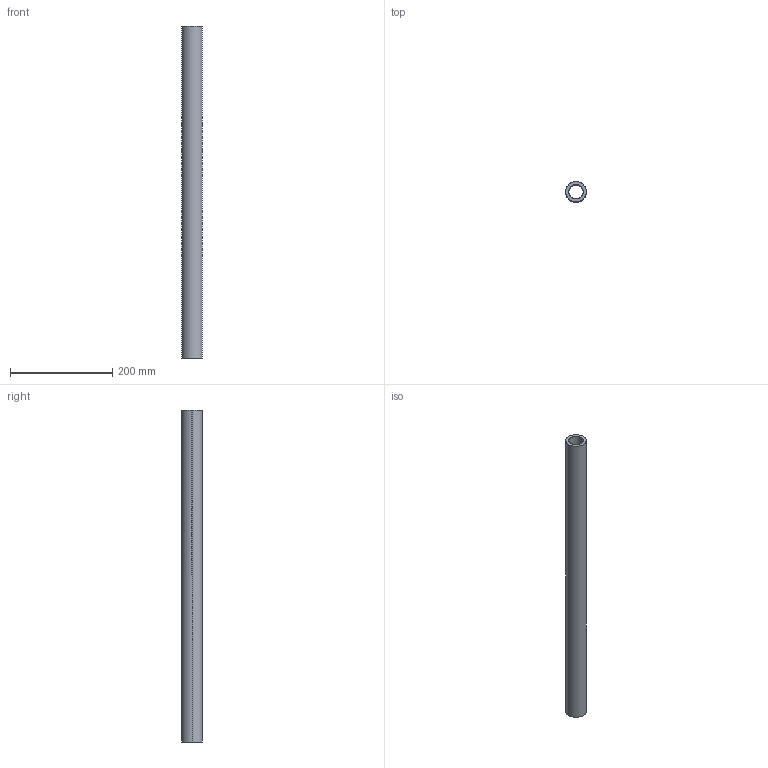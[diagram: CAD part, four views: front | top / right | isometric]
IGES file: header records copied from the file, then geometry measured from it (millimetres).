
Start section: SolidWorks IGES file using analytic representation for surfaces
Global section: file name: C:\Users\IanO\Desktop\L1771_v2\L1771.40_v2\L1771.40_v2_20230705_IGES\L1771.40-0650.igs; native system: SolidWorks 2019; preprocessor: SolidWorks 2019; author: IanO; date: 230705.160110; units: millimetre
Bounding box: 40 x 40 x 650 mm (x, y, z)
Surface area: 140140.2 mm2 (no closed solid volume)
Topology: 0 solids, 0 shells, 6 faces, 272 edges, 272 vertices
Faces by surface type: revolution 4, bspline 2
